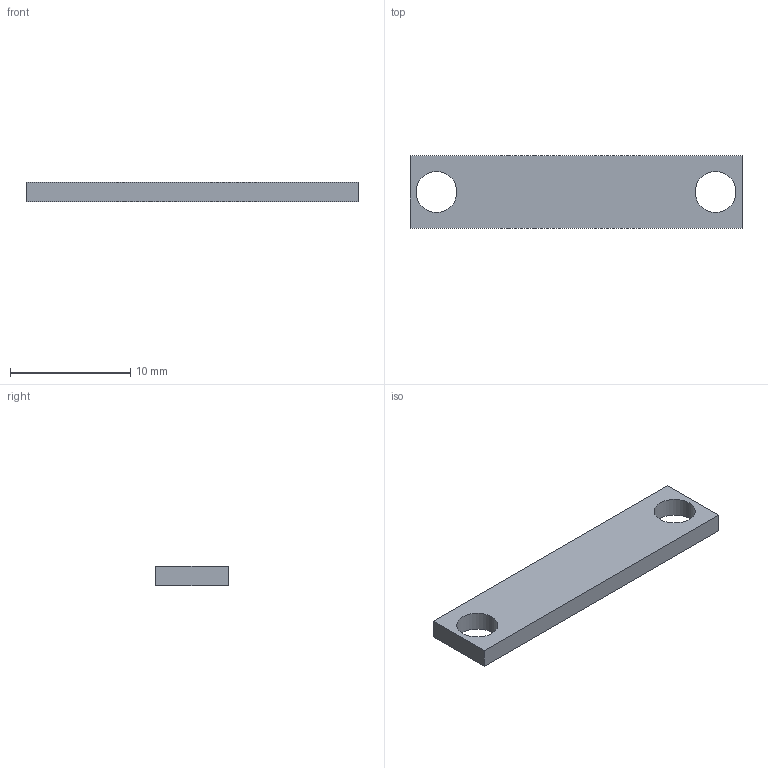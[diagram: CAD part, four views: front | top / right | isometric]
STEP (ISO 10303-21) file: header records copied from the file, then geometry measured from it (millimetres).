
FILE_DESCRIPTION(('FreeCAD Model'),'2;1');
FILE_NAME('Open CASCADE Shape Model','2026-11-20T08:25:38',('FreeCAD'),( 'FreeCAD'),'Open CASCADE STEP processor 7.8','FreeCAD','Unknown');
FILE_SCHEMA(('AUTOMOTIVE_DESIGN { 1 0 10303 214 1 1 1 1 }'));
Length unit declared in the file: millimetre
Products named in the file (1): Open CASCADE STEP translator 7.8 61
Bounding box: 27.6 x 6 x 1.6 mm (x, y, z)
Volume: 235.9 mm3; surface area: 436.6 mm2
Topology: 1 solids, 1 shells, 8 faces, 18 edges, 12 vertices
Faces by surface type: plane 6, cylinder 2
Full cylindrical faces by diameter (mm): 3.4 x2
Entity records: 244 total; most frequent: DIRECTION 40, CARTESIAN_POINT 39, ORIENTED_EDGE 36, EDGE_CURVE 18, LINE 14, VECTOR 14, AXIS2_PLACEMENT_3D 13, FACE_BOUND 12
